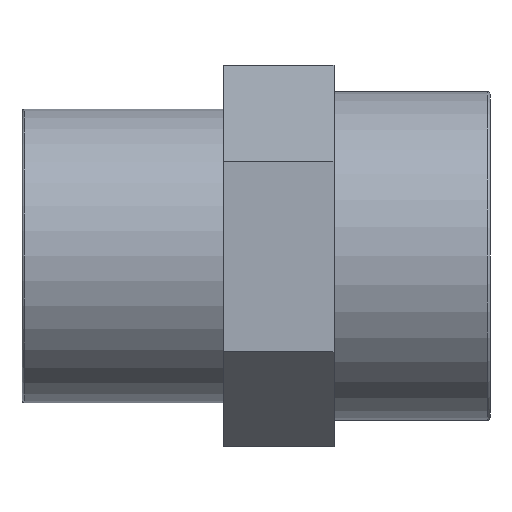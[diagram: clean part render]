
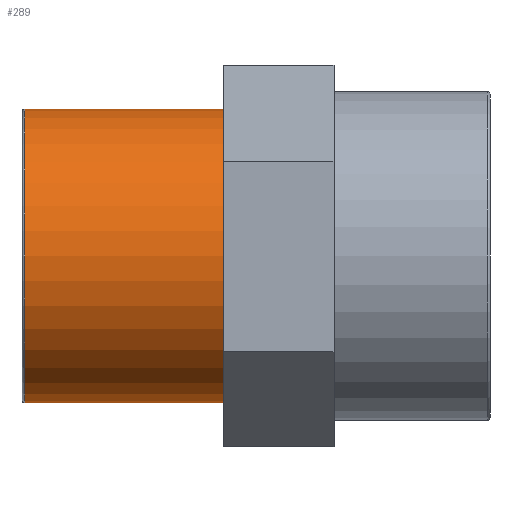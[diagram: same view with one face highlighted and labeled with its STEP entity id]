
A CAD part, front view. The second image highlights one B-rep face of the part: STEP entity #289.
In plain terms, the highlighted cylindrical face has radius 16 mm (diameter 32 mm), a full revolution.
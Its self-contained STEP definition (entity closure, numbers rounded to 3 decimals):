
#54=CYLINDRICAL_SURFACE('',#323,16.);
#77=FACE_BOUND('',#123,.T.);
#92=FACE_OUTER_BOUND('',#122,.T.);
#122=EDGE_LOOP('',(#230));
#123=EDGE_LOOP('',(#231));
#150=CIRCLE('',#322,16.);
#151=CIRCLE('',#324,16.);
#164=VERTEX_POINT('',#458);
#165=VERTEX_POINT('',#461);
#190=EDGE_CURVE('',#164,#164,#150,.T.);
#191=EDGE_CURVE('',#165,#165,#151,.T.);
#230=ORIENTED_EDGE('',*,*,#191,.T.);
#231=ORIENTED_EDGE('',*,*,#190,.F.);
#289=ADVANCED_FACE('',(#92,#77),#54,.T.);
#322=AXIS2_PLACEMENT_3D('',#459,#378,#379);
#323=AXIS2_PLACEMENT_3D('',#460,#380,#381);
#324=AXIS2_PLACEMENT_3D('',#462,#382,#383);
#378=DIRECTION('center_axis',(-1.,0.,0.));
#379=DIRECTION('ref_axis',(0.,1.,0.));
#380=DIRECTION('center_axis',(-1.,0.,0.));
#381=DIRECTION('ref_axis',(0.,-1.,0.));
#382=DIRECTION('center_axis',(-1.,0.,0.));
#383=DIRECTION('ref_axis',(0.,0.,1.));
#458=CARTESIAN_POINT('',(-25.18,-16.,0.));
#459=CARTESIAN_POINT('Origin',(-25.18,0.,0.));
#460=CARTESIAN_POINT('Origin',(-14.5,0.,0.));
#461=CARTESIAN_POINT('',(-3.5,-16.,0.));
#462=CARTESIAN_POINT('Origin',(-3.5,0.,0.));
